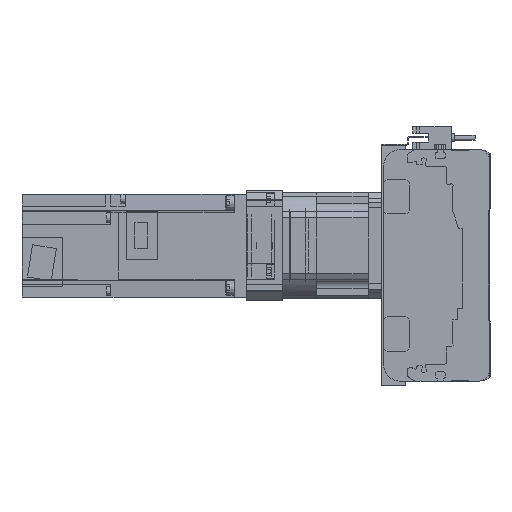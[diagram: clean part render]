
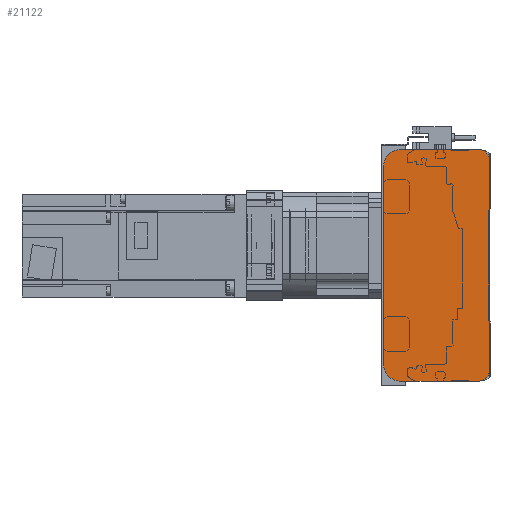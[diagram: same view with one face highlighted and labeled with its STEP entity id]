
A CAD part, left-side view. The second image highlights one B-rep face of the part: STEP entity #21122.
In plain terms, the highlighted planar face has unit normal (-1, 0, 0).
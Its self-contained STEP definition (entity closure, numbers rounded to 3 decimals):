
#1376=CIRCLE('',#23137,5.);
#1377=CIRCLE('',#23140,5.);
#1378=CIRCLE('',#23143,10.);
#1379=CIRCLE('',#23146,10.);
#6181=ORIENTED_EDGE('',*,*,#9593,.F.);
#6182=ORIENTED_EDGE('',*,*,#9750,.F.);
#6183=ORIENTED_EDGE('',*,*,#9742,.F.);
#6184=ORIENTED_EDGE('',*,*,#9740,.F.);
#6185=ORIENTED_EDGE('',*,*,#9367,.F.);
#6186=ORIENTED_EDGE('',*,*,#9739,.F.);
#6187=ORIENTED_EDGE('',*,*,#9737,.F.);
#6188=ORIENTED_EDGE('',*,*,#9735,.F.);
#6189=ORIENTED_EDGE('',*,*,#9733,.F.);
#6190=ORIENTED_EDGE('',*,*,#9731,.F.);
#9367=EDGE_CURVE('',#11654,#11655,#13506,.T.);
#9593=EDGE_CURVE('',#11755,#11756,#13649,.T.);
#9731=EDGE_CURVE('',#11756,#11839,#13778,.T.);
#9733=EDGE_CURVE('',#11839,#11840,#1376,.T.);
#9735=EDGE_CURVE('',#11840,#11841,#13781,.T.);
#9737=EDGE_CURVE('',#11841,#11842,#1377,.T.);
#9739=EDGE_CURVE('',#11842,#11654,#13784,.T.);
#9740=EDGE_CURVE('',#11655,#11843,#1378,.T.);
#9742=EDGE_CURVE('',#11843,#11844,#13786,.T.);
#9750=EDGE_CURVE('',#11844,#11755,#1379,.T.);
#11654=VERTEX_POINT('',#34872);
#11655=VERTEX_POINT('',#34874);
#11755=VERTEX_POINT('',#35275);
#11756=VERTEX_POINT('',#35277);
#11839=VERTEX_POINT('',#35554);
#11840=VERTEX_POINT('',#35558);
#11841=VERTEX_POINT('',#35562);
#11842=VERTEX_POINT('',#35566);
#11843=VERTEX_POINT('',#35572);
#11844=VERTEX_POINT('',#35576);
#13506=LINE('',#34873,#15309);
#13649=LINE('',#35276,#15452);
#13778=LINE('',#35553,#15581);
#13781=LINE('',#35561,#15584);
#13784=LINE('',#35569,#15587);
#13786=LINE('',#35575,#15589);
#15309=VECTOR('',#27948,1000.);
#15452=VECTOR('',#28409,1000.);
#15581=VECTOR('',#28668,1000.);
#15584=VECTOR('',#28677,1000.);
#15587=VECTOR('',#28686,1000.);
#15589=VECTOR('',#28694,1000.);
#17043=EDGE_LOOP('',(#6181,#6182,#6183,#6184,#6185,#6186,#6187,#6188,#6189,
#6190));
#18932=FACE_BOUND('',#17043,.T.);
#20039=PLANE('',#23147);
#21122=ADVANCED_FACE('',(#18932),#20039,.F.);
#23137=AXIS2_PLACEMENT_3D('',#35557,#28672,#28673);
#23140=AXIS2_PLACEMENT_3D('',#35565,#28681,#28682);
#23143=AXIS2_PLACEMENT_3D('',#35571,#28689,#28690);
#23146=AXIS2_PLACEMENT_3D('',#35589,#28704,#28705);
#23147=AXIS2_PLACEMENT_3D('',#35590,#28706,#28707);
#27948=DIRECTION('',(0.,1.,0.));
#28409=DIRECTION('',(0.,-1.,0.));
#28668=DIRECTION('',(0.,-0.942,-0.336));
#28672=DIRECTION('',(1.,0.,0.));
#28673=DIRECTION('',(0.,0.,-1.));
#28677=DIRECTION('',(0.,0.,-1.));
#28681=DIRECTION('',(1.,0.,0.));
#28682=DIRECTION('',(0.,0.,-1.));
#28686=DIRECTION('',(0.,0.942,-0.336));
#28689=DIRECTION('',(1.,0.,0.));
#28690=DIRECTION('',(0.,0.,-1.));
#28694=DIRECTION('',(0.,0.,1.));
#28704=DIRECTION('',(1.,0.,0.));
#28705=DIRECTION('',(0.,0.,-1.));
#28706=DIRECTION('',(1.,0.,0.));
#28707=DIRECTION('',(0.,0.,-1.));
#34872=CARTESIAN_POINT('',(-10.,6.,-67.5));
#34873=CARTESIAN_POINT('',(-10.,6.,-67.5));
#34874=CARTESIAN_POINT('',(-10.,52.,-67.5));
#35275=CARTESIAN_POINT('',(-10.,52.,67.5));
#35276=CARTESIAN_POINT('',(-10.,52.,67.5));
#35277=CARTESIAN_POINT('',(-10.,6.,67.5));
#35553=CARTESIAN_POINT('',(-10.,6.,67.5));
#35554=CARTESIAN_POINT('',(-10.,3.822,66.724));
#35557=CARTESIAN_POINT('',(-10.,5.5,62.014));
#35558=CARTESIAN_POINT('',(-10.,0.5,62.014));
#35561=CARTESIAN_POINT('',(-10.,0.5,62.014));
#35562=CARTESIAN_POINT('',(-10.,0.5,-62.014));
#35565=CARTESIAN_POINT('',(-10.,5.5,-62.014));
#35566=CARTESIAN_POINT('',(-10.,3.822,-66.724));
#35569=CARTESIAN_POINT('',(-10.,3.822,-66.724));
#35571=CARTESIAN_POINT('',(-10.,52.,-57.5));
#35572=CARTESIAN_POINT('',(-10.,62.,-57.5));
#35575=CARTESIAN_POINT('',(-10.,62.,-57.5));
#35576=CARTESIAN_POINT('',(-10.,62.,57.5));
#35589=CARTESIAN_POINT('',(-10.,52.,57.5));
#35590=CARTESIAN_POINT('',(-10.,5.5,62.014));
